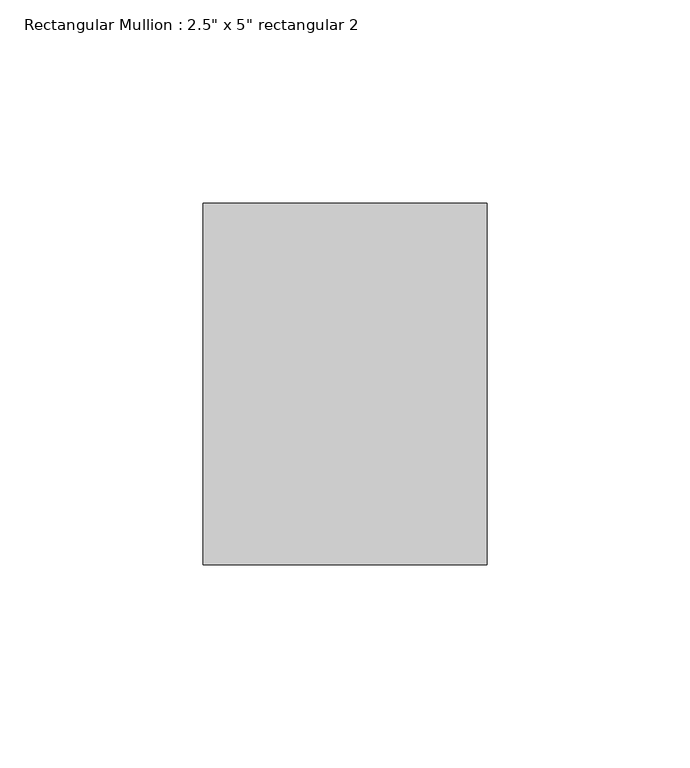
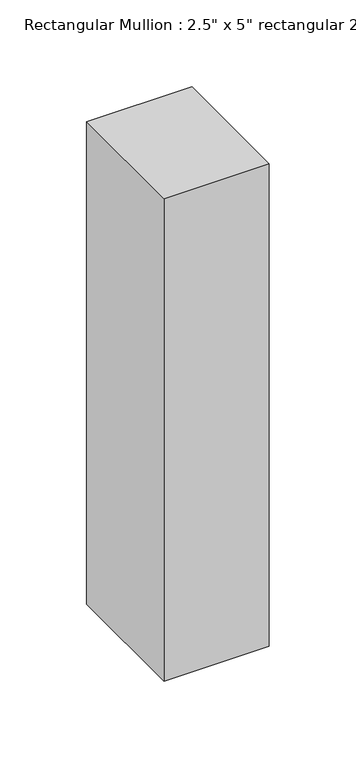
"""IFC4 building model written with IfcOpenShell, lengths in millimetres: member geometry."""

import ifcopenshell
import ifcopenshell.guid

model = None  # the IFC model being written
_history = None  # IfcOwnerHistory: only IFC2X3 demands one
_inside = {}  # id of a spatial element -> (the spatial element, [elements in it])
_under = {}  # id of a project, library or spatial element -> (it, [spatial elements below it])
_declared = {}  # id of a project -> (the project, [libraries it declares])
_typed = {}  # id of a type object -> (the type object, [elements of that type])
_made_of = {}  # id of a material, layer set ... -> (it, [elements and type objects made of it])


def new_model(schema):
    """Start an empty IFC model of exactly this schema.

    Asked for "IFC4X3", IfcOpenShell would pick the latest addendum, in which some entities
    have other attributes; the version numbers below select the first issue.
    IFC2X3 requires an IfcOwnerHistory on every rooted entity: one is made here for all.
    """
    global model, _history
    if schema == "IFC4X3":
        model = ifcopenshell.file(schema_version=(4, 3, 0, 0))
    else:
        model = ifcopenshell.file(schema=schema)
    _inside.clear()
    _under.clear()
    _declared.clear()
    _typed.clear()
    _made_of.clear()
    _history = None
    if model.schema == "IFC2X3":
        org = make("IfcOrganization", Name="unknown")
        user = make(
            "IfcPersonAndOrganization",
            ThePerson=make("IfcPerson", FamilyName="unknown"),
            TheOrganization=org,
        )
        app = make(
            "IfcApplication",
            ApplicationDeveloper=org,
            Version="unknown",
            ApplicationFullName="unknown",
            ApplicationIdentifier="unknown",
        )
        _history = make(
            "IfcOwnerHistory",
            OwningUser=user,
            OwningApplication=app,
            ChangeAction="ADDED",
            CreationDate=0,
        )
    return model


def make(cls, **values):
    """One entity of the class cls with the attributes given. An attribute that is None is left unset."""
    return model.create_entity(
        cls, **{name: value for name, value in values.items() if value is not None}
    )


def rooted(cls, **values):
    """An entity with a GlobalId (a new one), such as an element, a storey or a relation."""
    return make(cls, GlobalId=ifcopenshell.guid.new(), OwnerHistory=_history, **values)


def si_unit(unit_type, name, prefix=None):
    """IfcSIUnit, for example si_unit("LENGTHUNIT", "METRE", prefix="MILLI")."""
    return make("IfcSIUnit", UnitType=unit_type, Prefix=prefix, Name=name)


def assignment(units):
    """IfcUnitAssignment: the units of a project."""
    return None if units is None else make("IfcUnitAssignment", Units=units)


def point(xyz):
    """IfcCartesianPoint."""
    return None if xyz is None else make("IfcCartesianPoint", Coordinates=xyz)


def direction(xyz):
    """IfcDirection."""
    return None if xyz is None else make("IfcDirection", DirectionRatios=xyz)


def frame(location, z_axis=None, x_axis=None):
    """IfcAxis2Placement3D, a coordinate frame: its origin and axes. An axis left out is left unset."""
    return make(
        "IfcAxis2Placement3D",
        Location=point(location),
        Axis=direction(z_axis),
        RefDirection=direction(x_axis),
    )


def origin():
    """The frame at (0, 0, 0) with its axes left unset."""
    return frame((0.0, 0.0, 0.0))


def place(relative_to, where):
    """IfcLocalPlacement: puts the frame where relative to a parent placement (None: the world)."""
    return make(
        "IfcLocalPlacement", PlacementRelTo=relative_to, RelativePlacement=where
    )


def context(
    kind, dimensions, precision=None, world=None, true_north=None, identifier=None
):
    """IfcGeometricRepresentationContext, for example the 3D "Model" context."""
    return make(
        "IfcGeometricRepresentationContext",
        ContextIdentifier=identifier,
        ContextType=kind,
        CoordinateSpaceDimension=dimensions,
        Precision=precision,
        WorldCoordinateSystem=world,
        TrueNorth=true_north,
    )


def project(units=None, contexts=None):
    """IfcProject with its units and contexts."""
    return rooted(
        "IfcProject",
        Name="project",
        RepresentationContexts=contexts,
        UnitsInContext=assignment(units),
    )


def spatial(cls, under=None, at=None, **own):
    """A site, building, storey or space (cls), placed at a placement, below another one or the project."""
    s = rooted(cls, ObjectPlacement=at, **own)
    if under is not None:
        _under.setdefault(under.id(), (under, []))[1].append(s)
    return s


def polyline(points):
    """IfcPolyline through the points."""
    return make("IfcPolyline", Points=[point(p) for p in points])


def outline(outer, holes=None, kind="AREA"):
    """IfcArbitraryClosedProfileDef: a profile drawn as a closed curve; with holes, ...WithVoids."""
    if holes is None:
        return make("IfcArbitraryClosedProfileDef", ProfileType=kind, OuterCurve=outer)
    return make(
        "IfcArbitraryProfileDefWithVoids",
        ProfileType=kind,
        OuterCurve=outer,
        InnerCurves=holes,
    )


def extrude(swept, where, along, depth):
    """IfcExtrudedAreaSolid: the profile swept, set in the frame where, extruded along a direction by depth."""
    return make(
        "IfcExtrudedAreaSolid",
        SweptArea=swept,
        Position=where,
        ExtrudedDirection=direction(along),
        Depth=depth,
    )


def shape(context_of_items, identifier, shape_type, items):
    """IfcShapeRepresentation: the items that make up one representation, for example the "Body"."""
    return make(
        "IfcShapeRepresentation",
        ContextOfItems=context_of_items,
        RepresentationIdentifier=identifier,
        RepresentationType=shape_type,
        Items=items,
    )


def source(mapping_origin, context_of_items, identifier, shape_type, items):
    """IfcRepresentationMap: a shape defined once, which mapped items show again and again."""
    return make(
        "IfcRepresentationMap",
        MappingOrigin=mapping_origin,
        MappedRepresentation=shape(context_of_items, identifier, shape_type, items),
    )


def transform(
    local_origin,
    x_axis=None,
    y_axis=None,
    z_axis=None,
    scale=None,
    scale2=None,
    scale3=None,
    uniform=True,
):
    """IfcCartesianTransformationOperator3D, or its non-uniform kind. x_axis, y_axis, z_axis: its Axis1, 2, 3."""
    if uniform:
        return make(
            "IfcCartesianTransformationOperator3D",
            Axis1=direction(x_axis),
            Axis2=direction(y_axis),
            LocalOrigin=point(local_origin),
            Scale=scale,
            Axis3=direction(z_axis),
        )
    return make(
        "IfcCartesianTransformationOperator3DnonUniform",
        Axis1=direction(x_axis),
        Axis2=direction(y_axis),
        LocalOrigin=point(local_origin),
        Scale=scale,
        Axis3=direction(z_axis),
        Scale2=scale2,
        Scale3=scale3,
    )


def mapped(mapping_source, mapping_target):
    """IfcMappedItem: shows the shape of a source again, moved by a transform."""
    return make(
        "IfcMappedItem", MappingSource=mapping_source, MappingTarget=mapping_target
    )


def made_of(thing, what):
    """Note that an element or type object is made of a material, layer set ...; save() writes the relation."""
    if what is not None:
        _made_of.setdefault(what.id(), (what, []))[1].append(thing)
    return thing


def element(
    cls,
    number,
    at=None,
    inside=None,
    cuts=None,
    type_object=None,
    material=None,
    context=None,
    identifier="Body",
    shape_type=None,
    held_by="IfcProductDefinitionShape",
    body=None,
    shapes=None,
    **own,
):
    """One element of the class cls, such as IfcWall. Its Tag is "e" and its number.

    at: its placement. inside: the storey or other place that contains it. cuts: it is an
    opening in that element (IfcRelVoidsElement). A single representation is given by context,
    identifier, shape_type and body (its items); several are given by shapes. held_by: the class
    of the entity that holds the representations. save() writes the other relations.
    """
    e = rooted(cls, Tag="e%d" % number, ObjectPlacement=at, **own)
    if body is not None:
        shapes = [shape(context, identifier, shape_type, body)]
    if shapes is not None:
        e.Representation = make(held_by, Representations=shapes)
    if inside is not None:
        _inside.setdefault(inside.id(), (inside, []))[1].append(e)
    if cuts is not None:
        rooted(
            "IfcRelVoidsElement", RelatingBuildingElement=cuts, RelatedOpeningElement=e
        )
    if type_object is not None:
        _typed.setdefault(type_object.id(), (type_object, []))[1].append(e)
    return made_of(e, material)


def aggregate(whole, parts):
    """IfcRelAggregates: a whole, such as a stair, and the parts it consists of."""
    return rooted("IfcRelAggregates", RelatingObject=whole, RelatedObjects=parts)


def save(model, path):
    """Write the relations noted so far, then the file.

    IfcRelAggregates (storeys below a building ...), IfcRelContainedInSpatialStructure (elements
    in a storey), IfcRelDefinesByType, IfcRelAssociatesMaterial and IfcRelDeclares: one each for
    every whole, place, type object, material and project.
    """
    for whole, parts in _under.values():
        aggregate(whole, parts)
    for where, things in _inside.values():
        rooted(
            "IfcRelContainedInSpatialStructure",
            RelatedElements=things,
            RelatingStructure=where,
        )
    for kind, things in _typed.values():
        rooted("IfcRelDefinesByType", RelatedObjects=things, RelatingType=kind)
    for what, things in _made_of.values():
        rooted("IfcRelAssociatesMaterial", RelatedObjects=things, RelatingMaterial=what)
    for by, libraries in _declared.values():
        rooted("IfcRelDeclares", RelatingContext=by, RelatedDefinitions=libraries)
    model.write(path)


def member_cb389cee(model_context):
    return source(origin(), model_context, "Body", "SweptSolid", [
        extrude(outline(polyline([(0.0, 44.45), (0.0, -44.45), (-69.85, -44.45), (-69.85, 44.45), (0.0, 44.45)])), frame((0.0, 0.0, -338.8876978), z_axis=(0.0, 0.0, 1.0), x_axis=(1.0, 0.0, 0.0)), (0.0, 0.0, 1.0), 338.8876978),
    ])


if __name__ == "__main__":
    model = new_model("IFC4")
    model_context = context("Model", 3, world=origin())
    ifc_project = project(units=[si_unit("LENGTHUNIT", "METRE", prefix="MILLI")], contexts=[model_context])
    site = spatial("IfcSite", under=ifc_project)
    building = spatial("IfcBuilding", under=site)
    placement = place(None, origin())
    member_shape = member_cb389cee(model_context)
    element("IfcMember", 1, ObjectType="Rectangular Mullion : 2.5\" x 5\" rectangular 2", at=placement, inside=building, context=model_context, shape_type="MappedRepresentation", body=[
        mapped(member_shape, transform((0.0, 0.0, 0.0), x_axis=(1.0, 0.0, 0.0), y_axis=(0.0, 1.0, 0.0), z_axis=(0.0, 0.0, 1.0))),
    ])
    save(model, "model.ifc")
